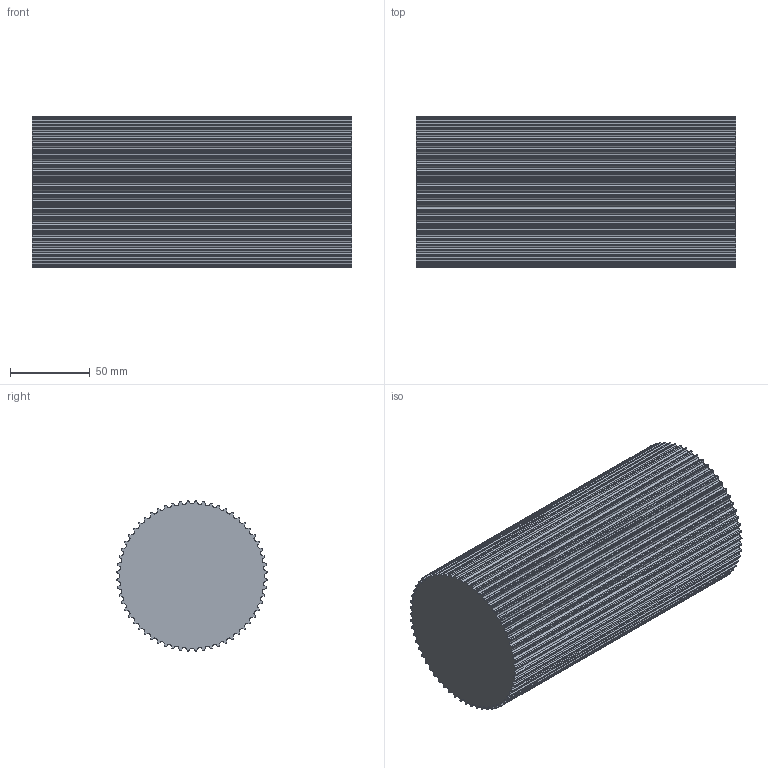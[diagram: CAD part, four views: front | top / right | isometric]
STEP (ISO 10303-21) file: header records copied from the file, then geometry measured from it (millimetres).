
FILE_DESCRIPTION( ( 'STEP AP214' ), '1' );
FILE_NAME( 'C:/Users/StangenbergN/Desktop/Steps Zahnriemenräder/K166_HTD-Zahnwellen/17296000.stp', '2019-06-06T09:42:30', ( '' ), ( '' ), ' ', 'PARTsolutions', ' ' );
FILE_SCHEMA( ( 'AUTOMOTIVE_DESIGN { 1 0 10303 214 1 1 1 1 }' ) );
Length unit declared in the file: millimetre
Products named in the file (1): _17296000
Bounding box: 200 x 94.24 x 94.24 mm (x, y, z)
Volume: 1328639.1 mm3; surface area: 96135.3 mm2
Topology: 1 solids, 1 shells, 482 faces, 1440 edges, 960 vertices
Faces by surface type: cylinder 300, plane 182
Entity records: 20336 total; most frequent: DIRECTION 3006, CARTESIAN_POINT 2883, ORIENTED_EDGE 2880, EDGE_CURVE 1440, AXIS2_PLACEMENT_3D 1083, VERTEX_POINT 960, LINE 840, VECTOR 840
